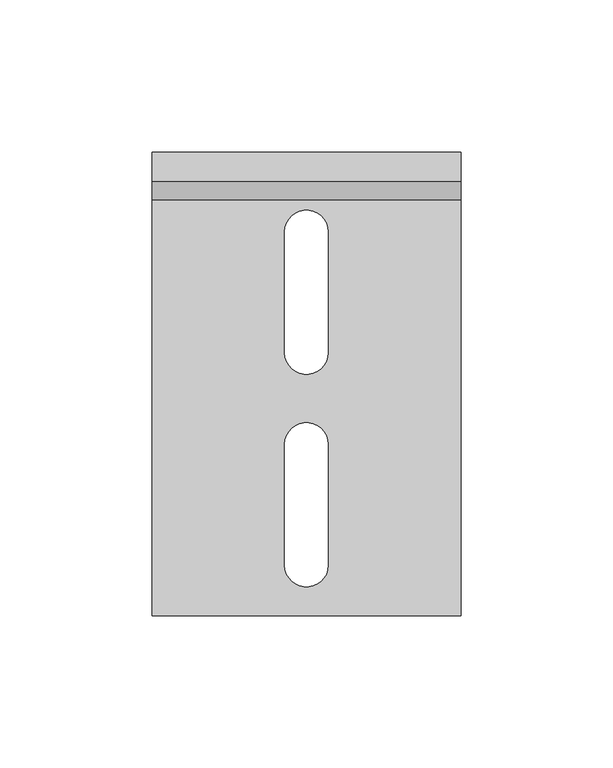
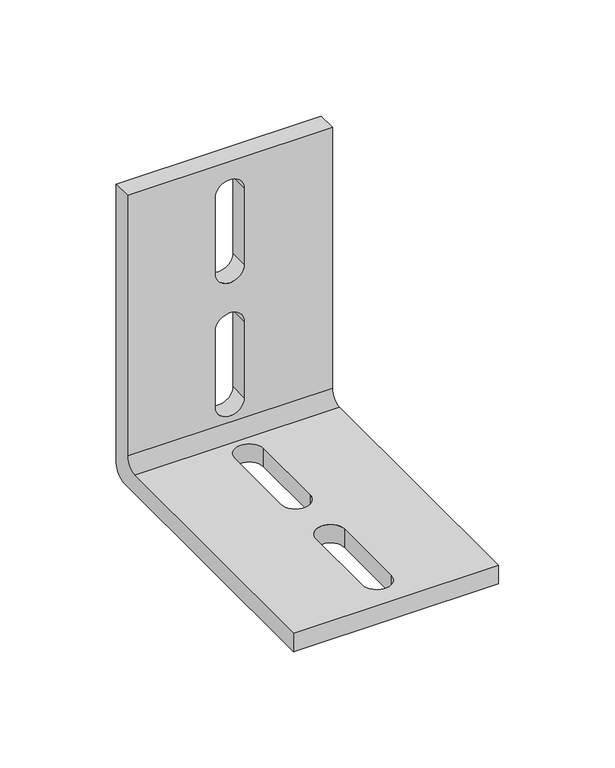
"""IFC4 building model written with IfcOpenShell, lengths in millimetres: proxy geometry, 14NSF-A44 : 14NSF-A44."""

from ifc_helpers import new_model, si_unit, frame, origin, place, context, project, spatial, polyline, circle_curve, source, transform, mapped, element, save
from ifc_brep_helpers import plane_surface, cylinder_surface, revolved_surface, advanced_brep


def generic_models_ea1f8331(model_context):
    return source(origin(), model_context, "Body", "AdvancedBrep", [
        advanced_brep(
        [(50.8, -152.4, 0.0), (50.8, -6.35, 0.0), (50.8, 0.0, 6.35), (50.8, 0.0, 152.4), (50.8, -9.525, 152.4), (50.8, -9.525, 15.875), (50.8, -15.875, 9.525), (50.8, -152.4, 9.525), (-50.8, -6.35, 0.0), (-50.8, -152.4, 0.0), (-50.8, -152.4, 9.525), (-50.8, -15.875, 9.525), (-50.8, -9.525, 15.875), (-50.8, -9.525, 152.4), (-50.8, 0.0, 152.4), (-50.8, 0.0, 6.35), (7.14375, -65.8874249, 0.0), (7.14375, -26.1875751, 0.0), (-7.14375, -26.1875751, 0.0), (-7.14375, -65.8874249, 0.0), (7.14375, -135.7374249, 0.0), (7.14375, -96.0375751, 0.0), (-7.14375, -96.0375751, 0.0), (-7.14375, -135.7374249, 0.0), (7.14375, 0.0, 96.0375751), (7.14375, 0.0, 135.7374249), (-7.14375, 0.0, 135.7374249), (-7.14375, 0.0, 96.0375751), (7.14375, 0.0, 26.1875751), (7.14375, 0.0, 65.8874249), (-7.14375, 0.0, 65.8874249), (-7.14375, 0.0, 26.1875751), (7.14375, -9.525, 135.7374249), (7.14375, -9.525, 96.0375751), (-7.14375, -9.525, 96.0375751), (-7.14375, -9.525, 135.7374249), (7.14375, -9.525, 65.8874249), (7.14375, -9.525, 26.1875751), (-7.14375, -9.525, 26.1875751), (-7.14375, -9.525, 65.8874249), (7.14375, -26.1875751, 9.525), (7.14375, -65.8874249, 9.525), (-7.14375, -65.8874249, 9.525), (-7.14375, -26.1875751, 9.525), (7.14375, -96.0375751, 9.525), (7.14375, -135.7374249, 9.525), (-7.14375, -135.7374249, 9.525), (-7.14375, -96.0375751, 9.525)],
        [
            (0, 1),
            (1, 2, circle_curve(frame((50.8, -6.35, 6.35), z_axis=(1.0, 0.0, 0.0), x_axis=(0.0, 1.0, 0.0)), 6.35)),
            (2, 3),
            (3, 4),
            (4, 5),
            (5, 6, circle_curve(frame((50.8, -15.875, 15.875), z_axis=(-1.0, 0.0, 0.0), x_axis=(0.0, 1.0, 0.0)), 6.35)),
            (6, 7),
            (7, 0),
            (8, 9),
            (9, 10),
            (10, 11),
            (11, 12, circle_curve(frame((-50.8, -15.875, 15.875), z_axis=(1.0, 0.0, 0.0), x_axis=(0.0, 1.0, 0.0)), 6.35)),
            (12, 13),
            (13, 14),
            (14, 15),
            (15, 8, circle_curve(frame((-50.8, -6.35, 6.35), z_axis=(-1.0, 0.0, 0.0), x_axis=(0.0, 1.0, 0.0)), 6.35)),
            (0, 9),
            (8, 1),
            (16, 17),
            (17, 18, circle_curve(frame((0.0, -26.1875751, 0.0), z_axis=(0.0, 0.0, 1.0), x_axis=(1.0, 0.0, 0.0)), 7.14375)),
            (18, 19),
            (19, 16, circle_curve(frame((0.0, -65.8874249, 0.0), z_axis=(0.0, 0.0, 1.0), x_axis=(1.0, 0.0, 0.0)), 7.14375)),
            (20, 21),
            (21, 22, circle_curve(frame((0.0, -96.0375751, 0.0), z_axis=(0.0, 0.0, 1.0), x_axis=(1.0, 0.0, 0.0)), 7.14375)),
            (22, 23),
            (23, 20, circle_curve(frame((0.0, -135.7374249, 0.0), z_axis=(0.0, 0.0, 1.0), x_axis=(1.0, 0.0, 0.0)), 7.14375)),
            (2, 15),
            (14, 3),
            (24, 25),
            (25, 26, circle_curve(frame((0.0, 0.0, 135.7374249), z_axis=(0.0, -1.0, 0.0), x_axis=(1.0, 0.0, 0.0)), 7.14375)),
            (26, 27),
            (27, 24, circle_curve(frame((0.0, 0.0, 96.0375751), z_axis=(0.0, -1.0, 0.0), x_axis=(1.0, 0.0, 0.0)), 7.14375)),
            (28, 29),
            (29, 30, circle_curve(frame((0.0, 0.0, 65.8874249), z_axis=(0.0, -1.0, 0.0), x_axis=(1.0, 0.0, 0.0)), 7.14375)),
            (30, 31),
            (31, 28, circle_curve(frame((0.0, 0.0, 26.1875751), z_axis=(0.0, -1.0, 0.0), x_axis=(1.0, 0.0, 0.0)), 7.14375)),
            (13, 4),
            (12, 5),
            (32, 33),
            (33, 34, circle_curve(frame((0.0, -9.525, 96.0375751), z_axis=(0.0, 1.0, 0.0), x_axis=(1.0, 0.0, 0.0)), 7.14375)),
            (34, 35),
            (35, 32, circle_curve(frame((0.0, -9.525, 135.7374249), z_axis=(0.0, 1.0, 0.0), x_axis=(1.0, 0.0, 0.0)), 7.14375)),
            (36, 37),
            (37, 38, circle_curve(frame((0.0, -9.525, 26.1875751), z_axis=(0.0, 1.0, 0.0), x_axis=(1.0, 0.0, 0.0)), 7.14375)),
            (38, 39),
            (39, 36, circle_curve(frame((0.0, -9.525, 65.8874249), z_axis=(0.0, 1.0, 0.0), x_axis=(1.0, 0.0, 0.0)), 7.14375)),
            (6, 11),
            (10, 7),
            (40, 41),
            (41, 42, circle_curve(frame((0.0, -65.8874249, 9.525), z_axis=(0.0, 0.0, -1.0), x_axis=(1.0, 0.0, 0.0)), 7.14375)),
            (42, 43),
            (43, 40, circle_curve(frame((0.0, -26.1875751, 9.525), z_axis=(0.0, 0.0, -1.0), x_axis=(1.0, 0.0, 0.0)), 7.14375)),
            (44, 45),
            (45, 46, circle_curve(frame((0.0, -135.7374249, 9.525), z_axis=(0.0, 0.0, -1.0), x_axis=(1.0, 0.0, 0.0)), 7.14375)),
            (46, 47),
            (47, 44, circle_curve(frame((0.0, -96.0375751, 9.525), z_axis=(0.0, 0.0, -1.0), x_axis=(1.0, 0.0, 0.0)), 7.14375)),
            (16, 41),
            (40, 17),
            (43, 18),
            (42, 19),
            (20, 45),
            (44, 21),
            (47, 22),
            (46, 23),
            (24, 33),
            (32, 25),
            (35, 26),
            (34, 27),
            (28, 37),
            (36, 29),
            (39, 30),
            (38, 31),
        ],
        [
            plane_surface(frame((50.8, -6.35, 0.0), z_axis=(1.0, 0.0, 0.0), x_axis=(0.0, 1.0, 0.0))),
            plane_surface(frame((-50.8, -6.35, 0.0), z_axis=(-1.0, 0.0, 0.0), x_axis=(0.0, -1.0, 0.0))),
            plane_surface(frame((50.8, -152.4, 0.0), z_axis=(0.0, 0.0, -1.0), x_axis=(-1.0, 0.0, 0.0))),
            plane_surface(frame((50.8, 0.0, 6.35), z_axis=(0.0, 1.0, 0.0), x_axis=(-1.0, 0.0, 0.0))),
            plane_surface(frame((50.8, 0.0, 152.4), z_axis=(0.0, 0.0, 1.0), x_axis=(-1.0, 0.0, 0.0))),
            plane_surface(frame((50.8, -9.525, 152.4), z_axis=(0.0, -1.0, 0.0), x_axis=(-1.0, 0.0, 0.0))),
            plane_surface(frame((50.8, -15.875, 9.525), z_axis=(0.0, 0.0, 1.0), x_axis=(-1.0, 0.0, 0.0))),
            plane_surface(frame((50.8, -152.4, 9.525), z_axis=(0.0, -1.0, 0.0), x_axis=(-1.0, 0.0, 0.0))),
            plane_surface(frame((7.14375, -65.8874249, 12.7), z_axis=(-1.0, 0.0, 0.0), x_axis=(0.0, 0.0, -1.0))),
            revolved_surface(polyline([(7.14375, -26.1875751, 9.525), (7.14375, -26.1875751, 0.0)]), (0.0, -26.1875751, 0.0), (0.0, 0.0, 1.0)),
            plane_surface(frame((-7.14375, -26.1875751, 12.7), z_axis=(1.0, 0.0, 0.0), x_axis=(0.0, 0.0, -1.0))),
            revolved_surface(polyline([(7.14375, -65.8874249, 9.525), (7.14375, -65.8874249, 0.0)]), (0.0, -65.8874249, 0.0), (0.0, 0.0, 1.0)),
            plane_surface(frame((7.14375, -135.7374249, 12.7), z_axis=(-1.0, 0.0, 0.0), x_axis=(0.0, 0.0, -1.0))),
            revolved_surface(polyline([(7.14375, -96.0375751, 9.525), (7.14375, -96.0375751, 0.0)]), (0.0, -96.0375751, 0.0), (0.0, 0.0, 1.0)),
            plane_surface(frame((-7.14375, -96.0375751, 12.7), z_axis=(1.0, 0.0, 0.0), x_axis=(0.0, 0.0, -1.0))),
            revolved_surface(polyline([(7.14375, -135.7374249, 9.525), (7.14375, -135.7374249, 0.0)]), (0.0, -135.7374249, 0.0), (0.0, 0.0, 1.0)),
            plane_surface(frame((7.14375, -12.7, 96.0375751), z_axis=(-1.0, 0.0, 0.0), x_axis=(0.0, 1.0, 0.0))),
            revolved_surface(polyline([(7.14375, -9.525, 135.7374249), (7.14375, 0.0, 135.7374249)]), (0.0, 0.0, 135.7374249), (0.0, -1.0, 0.0)),
            plane_surface(frame((-7.14375, -12.7, 135.7374249), z_axis=(1.0, 0.0, 0.0), x_axis=(0.0, 1.0, 0.0))),
            revolved_surface(polyline([(7.14375, -9.525, 96.0375751), (7.14375, 0.0, 96.0375751)]), (0.0, 0.0, 96.0375751), (0.0, -1.0, 0.0)),
            plane_surface(frame((7.14375, -12.7, 26.1875751), z_axis=(-1.0, 0.0, 0.0), x_axis=(0.0, 1.0, 0.0))),
            revolved_surface(polyline([(7.14375, -9.525, 65.8874249), (7.14375, 0.0, 65.8874249)]), (0.0, 0.0, 65.8874249), (0.0, -1.0, 0.0)),
            plane_surface(frame((-7.14375, -12.7, 65.8874249), z_axis=(1.0, 0.0, 0.0), x_axis=(0.0, 1.0, 0.0))),
            revolved_surface(polyline([(7.14375, -9.525, 26.1875751), (7.14375, 0.0, 26.1875751)]), (0.0, 0.0, 26.1875751), (0.0, -1.0, 0.0)),
            cylinder_surface(frame((-50.8, -6.35, 6.35), z_axis=(1.0, 0.0, 0.0), x_axis=(0.0, 1.0, 0.0)), 6.35),
            revolved_surface(polyline([(-50.8, -9.525, 15.875), (50.8, -9.525, 15.875)]), (-50.8, -15.875, 15.875), (-1.0, 0.0, 0.0)),
        ],
        [
            (0, [[1, 2, 3, 4, 5, 6, 7, 8]]),
            (1, [[9, 10, 11, 12, 13, 14, 15, 16]]),
            (2, [[-1, 17, -9, 18], [19, 20, 21, 22], [23, 24, 25, 26]]),
            (3, [[-3, 27, -15, 28], [29, 30, 31, 32], [33, 34, 35, 36]]),
            (4, [[-4, -28, -14, 37]]),
            (5, [[-5, -37, -13, 38], [39, 40, 41, 42], [43, 44, 45, 46]]),
            (6, [[-7, 47, -11, 48], [49, 50, 51, 52], [53, 54, 55, 56]]),
            (7, [[-8, -48, -10, -17]]),
            (8, [[-19, 57, -49, 58]]),
            (9, [[-20, -58, -52, 59]]),
            (10, [[-21, -59, -51, 60]]),
            (11, [[-22, -60, -50, -57]]),
            (12, [[-23, 61, -53, 62]]),
            (13, [[-24, -62, -56, 63]]),
            (14, [[-25, -63, -55, 64]]),
            (15, [[-26, -64, -54, -61]]),
            (16, [[-29, 65, -39, 66]]),
            (17, [[-30, -66, -42, 67]]),
            (18, [[-31, -67, -41, 68]]),
            (19, [[-32, -68, -40, -65]]),
            (20, [[69, -43, 70, -33]]),
            (21, [[-70, -46, 71, -34]]),
            (22, [[-71, -45, 72, -35]]),
            (23, [[-69, -36, -72, -44]]),
            (24, [[-2, -18, -16, -27]]),
            (25, [[-6, -38, -12, -47]]),
        ],
    ),
    ])


if __name__ == "__main__":
    model = new_model("IFC4")
    model_context = context("Model", 3, world=origin())
    ifc_project = project(units=[si_unit("LENGTHUNIT", "METRE", prefix="MILLI")], contexts=[model_context])
    site = spatial("IfcSite", under=ifc_project)
    building = spatial("IfcBuilding", under=site)
    placement = place(None, origin())
    generic_models_shape = generic_models_ea1f8331(model_context)
    element("IfcBuildingElementProxy", 1, Name="14NSF-A44 : 14NSF-A44", ObjectType="14NSF-A44 : 14NSF-A44", at=placement, inside=building, context=model_context, shape_type="MappedRepresentation", body=[
        mapped(generic_models_shape, transform((0.0, 0.0, 0.0), x_axis=(1.0, 0.0, 0.0), y_axis=(0.0, 1.0, 0.0), z_axis=(0.0, 0.0, 1.0))),
    ])
    save(model, "model.ifc")
